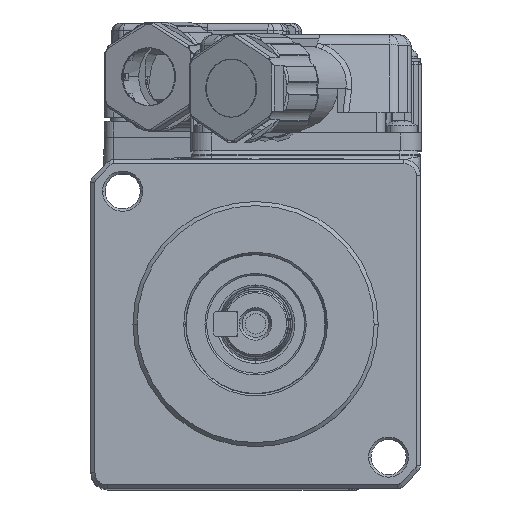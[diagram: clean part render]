
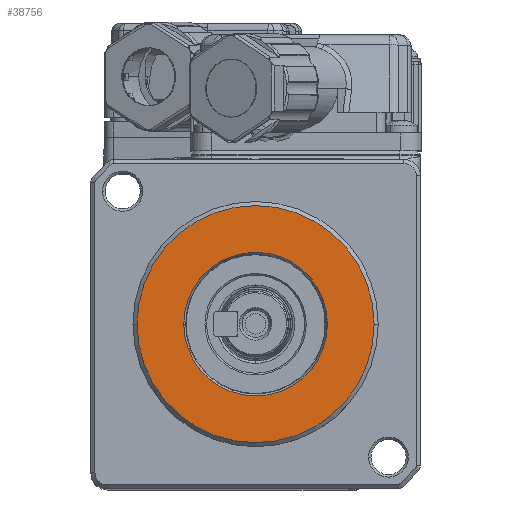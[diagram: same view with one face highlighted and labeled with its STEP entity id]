
A CAD part, top view. The second image highlights one B-rep face of the part: STEP entity #38756.
In plain terms, the highlighted planar face has unit normal (0, 0, 1).
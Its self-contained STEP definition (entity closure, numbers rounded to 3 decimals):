
#4221 = CARTESIAN_POINT ( 'NONE',  ( 14.5, 0., -3. ) ) ;
#5861 = VERTEX_POINT ( 'NONE', #45246 ) ;
#7473 = AXIS2_PLACEMENT_3D ( 'NONE', #71007, #25160, #65350 ) ;
#8828 = CIRCLE ( 'NONE', #12478, 8.789 ) ;
#9258 = CARTESIAN_POINT ( 'NONE',  ( 0., 0., -3. ) ) ;
#10676 = DIRECTION ( 'NONE',  ( -1., 0., 0. ) ) ;
#11868 = EDGE_CURVE ( 'NONE', #5861, #58965, #72080, .T. ) ;
#12478 = AXIS2_PLACEMENT_3D ( 'NONE', #16745, #17127, #10676 ) ;
#13258 = CARTESIAN_POINT ( 'NONE',  ( -8.789, 0., -3. ) ) ;
#15346 = DIRECTION ( 'NONE',  ( 0., 0., -1. ) ) ;
#16745 = CARTESIAN_POINT ( 'NONE',  ( 0., 0., -3. ) ) ;
#16980 = VERTEX_POINT ( 'NONE', #74292 ) ;
#17127 = DIRECTION ( 'NONE',  ( 0., 0., -1. ) ) ;
#17610 = EDGE_LOOP ( 'NONE', ( #46297, #42236 ) ) ;
#17766 = DIRECTION ( 'NONE',  ( -1., 0., 0. ) ) ;
#18892 = FACE_OUTER_BOUND ( 'NONE', #17610, .T. ) ;
#22542 = EDGE_LOOP ( 'NONE', ( #74073, #74596 ) ) ;
#22709 = CARTESIAN_POINT ( 'NONE',  ( 0., 0., -3. ) ) ;
#25160 = DIRECTION ( 'NONE',  ( 0., 0., -1. ) ) ;
#28872 = DIRECTION ( 'NONE',  ( 0., 0., -1. ) ) ;
#29896 = CIRCLE ( 'NONE', #72576, 14.5 ) ;
#35989 = AXIS2_PLACEMENT_3D ( 'NONE', #71573, #40687, #17766 ) ;
#38756 = ADVANCED_FACE ( 'NONE', ( #18892, #46767 ), #48333, .F. ) ;
#40627 = EDGE_CURVE ( 'NONE', #67163, #16980, #40754, .T. ) ;
#40687 = DIRECTION ( 'NONE',  ( 0., 0., -1. ) ) ;
#40754 = CIRCLE ( 'NONE', #48086, 8.789 ) ;
#42236 = ORIENTED_EDGE ( 'NONE', *, *, #53023, .F. ) ;
#45246 = CARTESIAN_POINT ( 'NONE',  ( -14.5, 0., -3. ) ) ;
#46297 = ORIENTED_EDGE ( 'NONE', *, *, #11868, .F. ) ;
#46767 = FACE_BOUND ( 'NONE', #22542, .T. ) ;
#48086 = AXIS2_PLACEMENT_3D ( 'NONE', #22709, #28872, #48272 ) ;
#48272 = DIRECTION ( 'NONE',  ( -1., 0., 0. ) ) ;
#48333 = PLANE ( 'NONE',  #35989 ) ;
#53023 = EDGE_CURVE ( 'NONE', #58965, #5861, #29896, .T. ) ;
#58965 = VERTEX_POINT ( 'NONE', #4221 ) ;
#62490 = EDGE_CURVE ( 'NONE', #16980, #67163, #8828, .T. ) ;
#62729 = DIRECTION ( 'NONE',  ( -1., 0., 0. ) ) ;
#65350 = DIRECTION ( 'NONE',  ( -1., 0., 0. ) ) ;
#67163 = VERTEX_POINT ( 'NONE', #13258 ) ;
#71007 = CARTESIAN_POINT ( 'NONE',  ( 0., 0., -3. ) ) ;
#71573 = CARTESIAN_POINT ( 'NONE',  ( 0., 14.5, -3. ) ) ;
#72080 = CIRCLE ( 'NONE', #7473, 14.5 ) ;
#72576 = AXIS2_PLACEMENT_3D ( 'NONE', #9258, #15346, #62729 ) ;
#74073 = ORIENTED_EDGE ( 'NONE', *, *, #62490, .T. ) ;
#74292 = CARTESIAN_POINT ( 'NONE',  ( 8.789, 0., -3. ) ) ;
#74596 = ORIENTED_EDGE ( 'NONE', *, *, #40627, .T. ) ;
